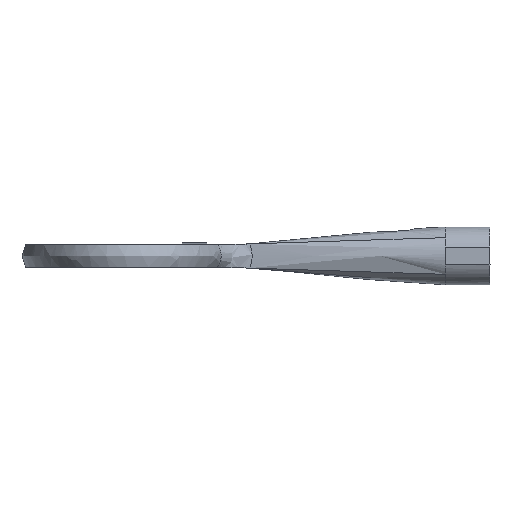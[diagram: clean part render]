
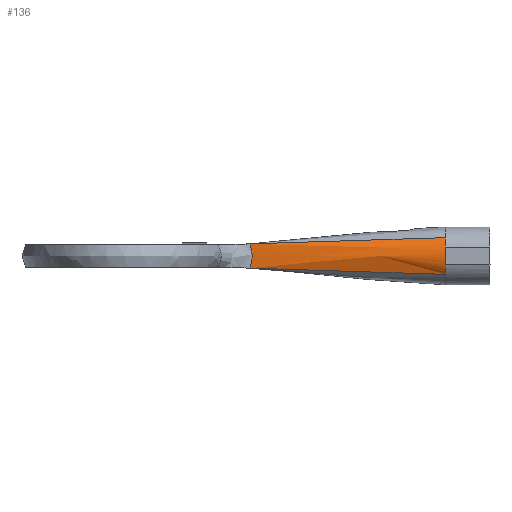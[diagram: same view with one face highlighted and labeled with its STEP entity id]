
A CAD part, left-side view. The second image highlights one B-rep face of the part: STEP entity #136.
In plain terms, the highlighted free-form (B-spline) face has degree [3, 3] with [4, 7] control points.
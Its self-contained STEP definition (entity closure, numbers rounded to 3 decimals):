
#136=ADVANCED_FACE('',(#286),#287,.T.);
#286=FACE_OUTER_BOUND('',#793,.T.);
#287=B_SPLINE_SURFACE_WITH_KNOTS('',3,3,((#794,#795,#796,#797,#798,#799,#800),(#801,#802,#803,#804,#805,#806,#807),(#808,#809,#810,#811,#812,#813,#814),(#815,#816,#817,#818,#819,#820,#821)),.UNSPECIFIED.,.F.,.F.,.F.,(4,4),(4,1,1,1,4),(0.0,1.0),(0.0,0.25,0.5,0.75,1.0),.UNSPECIFIED.);
#793=EDGE_LOOP('',(#2628,#2629,#2630,#2631,#2632,#2633));
#794=CARTESIAN_POINT('',(-4.5,-15.148,-1.75));
#795=CARTESIAN_POINT('',(-4.5,-15.148,-1.458));
#796=CARTESIAN_POINT('',(-4.5,-15.148,-0.875));
#797=CARTESIAN_POINT('',(-4.5,-15.148,0.));
#798=CARTESIAN_POINT('',(-4.5,-15.148,0.875));
#799=CARTESIAN_POINT('',(-4.5,-15.148,1.458));
#800=CARTESIAN_POINT('',(-4.5,-15.148,1.75));
#801=CARTESIAN_POINT('',(-4.158,-26.775,-2.12));
#802=CARTESIAN_POINT('',(-4.158,-26.775,-1.829));
#803=CARTESIAN_POINT('',(-4.158,-26.775,-1.153));
#804=CARTESIAN_POINT('',(-4.158,-26.775,0.));
#805=CARTESIAN_POINT('',(-4.158,-26.775,1.153));
#806=CARTESIAN_POINT('',(-4.158,-26.775,1.829));
#807=CARTESIAN_POINT('',(-4.158,-26.775,2.12));
#808=CARTESIAN_POINT('',(-3.816,-38.403,-2.491));
#809=CARTESIAN_POINT('',(-4.144,-38.403,-2.092));
#810=CARTESIAN_POINT('',(-4.662,-38.403,-1.272));
#811=CARTESIAN_POINT('',(-4.932,-38.403,0.));
#812=CARTESIAN_POINT('',(-4.662,-38.403,1.272));
#813=CARTESIAN_POINT('',(-4.144,-38.403,2.092));
#814=CARTESIAN_POINT('',(-3.816,-38.403,2.491));
#815=CARTESIAN_POINT('',(-3.473,-50.03,-2.861));
#816=CARTESIAN_POINT('',(-3.802,-50.03,-2.462));
#817=CARTESIAN_POINT('',(-4.32,-50.03,-1.55));
#818=CARTESIAN_POINT('',(-4.59,-50.03,0.));
#819=CARTESIAN_POINT('',(-4.32,-50.03,1.55));
#820=CARTESIAN_POINT('',(-3.802,-50.03,2.462));
#821=CARTESIAN_POINT('',(-3.473,-50.03,2.861));
#2628=ORIENTED_EDGE('',*,*,#3027,.T.);
#2629=ORIENTED_EDGE('',*,*,#3028,.T.);
#2630=ORIENTED_EDGE('',*,*,#3029,.T.);
#2631=ORIENTED_EDGE('',*,*,#2854,.T.);
#2632=ORIENTED_EDGE('',*,*,#3030,.T.);
#2633=ORIENTED_EDGE('',*,*,#3031,.F.);
#2854=EDGE_CURVE('',#3079,#3080,#3081,.T.);
#3027=EDGE_CURVE('',#3372,#3373,#3374,.T.);
#3028=EDGE_CURVE('',#3373,#3375,#3376,.T.);
#3029=EDGE_CURVE('',#3375,#3079,#3377,.T.);
#3030=EDGE_CURVE('',#3080,#3101,#3378,.T.);
#3031=EDGE_CURVE('',#3372,#3101,#3379,.T.);
#3079=VERTEX_POINT('',#3454);
#3080=VERTEX_POINT('',#3455);
#3081=B_SPLINE_CURVE_WITH_KNOTS('',3,(#3456,#3457,#3458,#3459,#3460),.UNSPECIFIED.,.F.,.F.,(4,1,4),(0.0,0.25,0.27),.UNSPECIFIED.);
#3101=VERTEX_POINT('',#3497);
#3372=VERTEX_POINT('',#4189);
#3373=VERTEX_POINT('',#4190);
#3374=B_SPLINE_CURVE_WITH_KNOTS('',3,(#4191,#4192,#4193,#4194),.UNSPECIFIED.,.F.,.F.,(4,4),(0.0,0.874),.UNSPECIFIED.);
#3375=VERTEX_POINT('',#4195);
#3376=B_SPLINE_CURVE_WITH_KNOTS('',3,(#4196,#4197,#4198,#4199,#4200,#4201,#4202,#4203,#4204,#4205,#4206,#4207,#4208,#4209,#4210,#4211,#4212,#4213,#4214,#4215,#4216,#4217,#4218,#4219,#4220,#4221,#4222,#4223,#4224,#4225,#4226,#4227,#4228,#4229,#4230,#4231,#4232,#4233,#4234,#4235,#4236,#4237),.UNSPECIFIED.,.F.,.F.,(4,2,1,1,1,1,1,1,2,2,2,2,1,2,2,1,2,2,1,2,2,1,1,1,1,1,2,4),(0.,0.,0.,0.,0.,0.,0.,0.,0.,0.001,0.001,0.001,0.001,0.001,0.002,0.002,0.002,0.002,0.002,0.003,0.003,0.004,0.004,0.004,0.004,0.004,0.004,0.004),.UNSPECIFIED.);
#3377=B_SPLINE_CURVE_WITH_KNOTS('',3,(#4238,#4239,#4240,#4241),.UNSPECIFIED.,.F.,.F.,(4,4),(0.126,1.0),.UNSPECIFIED.);
#3378=B_SPLINE_CURVE_WITH_KNOTS('',3,(#4242,#4243,#4244,#4245,#4246),.UNSPECIFIED.,.F.,.F.,(4,1,4),(0.27,0.5,0.73),.UNSPECIFIED.);
#3379=B_SPLINE_CURVE_WITH_KNOTS('',3,(#4247,#4248,#4249,#4250),.UNSPECIFIED.,.F.,.F.,(4,4),(0.851,1.0),.UNSPECIFIED.);
#3454=CARTESIAN_POINT('',(-3.472,-50.03,-2.862));
#3455=CARTESIAN_POINT('',(-4.277,-50.03,-1.4));
#3456=CARTESIAN_POINT('',(-3.473,-50.03,-2.861));
#3457=CARTESIAN_POINT('',(-3.802,-50.03,-2.462));
#3458=CARTESIAN_POINT('',(-4.082,-50.03,-1.969));
#3459=CARTESIAN_POINT('',(-4.264,-50.03,-1.44));
#3460=CARTESIAN_POINT('',(-4.277,-50.03,-1.4));
#3497=CARTESIAN_POINT('',(-4.277,-50.03,1.4));
#4189=CARTESIAN_POINT('',(-3.473,-50.03,2.862));
#4190=CARTESIAN_POINT('',(-4.371,-19.541,1.89));
#4191=CARTESIAN_POINT('',(-3.473,-50.03,2.861));
#4192=CARTESIAN_POINT('',(-3.772,-39.867,2.537));
#4193=CARTESIAN_POINT('',(-4.072,-29.704,2.214));
#4194=CARTESIAN_POINT('',(-4.371,-19.541,1.89));
#4195=CARTESIAN_POINT('',(-4.371,-19.541,-1.89));
#4196=CARTESIAN_POINT('',(-4.371,-19.541,1.89));
#4197=CARTESIAN_POINT('',(-4.371,-19.541,1.889));
#4198=CARTESIAN_POINT('',(-4.371,-19.542,1.888));
#4199=CARTESIAN_POINT('',(-4.371,-19.543,1.885));
#4200=CARTESIAN_POINT('',(-4.371,-19.544,1.882));
#4201=CARTESIAN_POINT('',(-4.371,-19.547,1.873));
#4202=CARTESIAN_POINT('',(-4.372,-19.554,1.857));
#4203=CARTESIAN_POINT('',(-4.373,-19.567,1.824));
#4204=CARTESIAN_POINT('',(-4.376,-19.593,1.758));
#4205=CARTESIAN_POINT('',(-4.38,-19.642,1.625));
#4206=CARTESIAN_POINT('',(-4.384,-19.68,1.509));
#4207=CARTESIAN_POINT('',(-4.392,-19.752,1.278));
#4208=CARTESIAN_POINT('',(-4.396,-19.793,1.121));
#4209=CARTESIAN_POINT('',(-4.401,-19.834,0.922));
#4210=CARTESIAN_POINT('',(-4.402,-19.842,0.882));
#4211=CARTESIAN_POINT('',(-4.403,-19.853,0.822));
#4212=CARTESIAN_POINT('',(-4.404,-19.857,0.802));
#4213=CARTESIAN_POINT('',(-4.404,-19.864,0.762));
#4214=CARTESIAN_POINT('',(-4.406,-19.88,0.662));
#4215=CARTESIAN_POINT('',(-4.408,-19.893,0.562));
#4216=CARTESIAN_POINT('',(-4.411,-19.919,0.321));
#4217=CARTESIAN_POINT('',(-4.412,-19.927,0.159));
#4218=CARTESIAN_POINT('',(-4.412,-19.927,-0.083));
#4219=CARTESIAN_POINT('',(-4.411,-19.924,-0.204));
#4220=CARTESIAN_POINT('',(-4.41,-19.916,-0.326));
#4221=CARTESIAN_POINT('',(-4.41,-19.911,-0.386));
#4222=CARTESIAN_POINT('',(-4.41,-19.909,-0.407));
#4223=CARTESIAN_POINT('',(-4.409,-19.905,-0.447));
#4224=CARTESIAN_POINT('',(-4.407,-19.887,-0.629));
#4225=CARTESIAN_POINT('',(-4.404,-19.858,-0.809));
#4226=CARTESIAN_POINT('',(-4.396,-19.792,-1.124));
#4227=CARTESIAN_POINT('',(-4.392,-19.752,-1.279));
#4228=CARTESIAN_POINT('',(-4.384,-19.68,-1.51));
#4229=CARTESIAN_POINT('',(-4.38,-19.642,-1.625));
#4230=CARTESIAN_POINT('',(-4.376,-19.593,-1.758));
#4231=CARTESIAN_POINT('',(-4.373,-19.567,-1.824));
#4232=CARTESIAN_POINT('',(-4.372,-19.554,-1.857));
#4233=CARTESIAN_POINT('',(-4.371,-19.547,-1.873));
#4234=CARTESIAN_POINT('',(-4.371,-19.544,-1.881));
#4235=CARTESIAN_POINT('',(-4.371,-19.543,-1.885));
#4236=CARTESIAN_POINT('',(-4.371,-19.542,-1.888));
#4237=CARTESIAN_POINT('',(-4.371,-19.541,-1.89));
#4238=CARTESIAN_POINT('',(-4.371,-19.541,-1.89));
#4239=CARTESIAN_POINT('',(-4.072,-29.704,-2.214));
#4240=CARTESIAN_POINT('',(-3.772,-39.867,-2.537));
#4241=CARTESIAN_POINT('',(-3.473,-50.03,-2.861));
#4242=CARTESIAN_POINT('',(-4.277,-50.03,-1.4));
#4243=CARTESIAN_POINT('',(-4.424,-50.03,-0.949));
#4244=CARTESIAN_POINT('',(-4.576,-50.03,0.));
#4245=CARTESIAN_POINT('',(-4.424,-50.03,0.949));
#4246=CARTESIAN_POINT('',(-4.277,-50.03,1.4));
#4247=CARTESIAN_POINT('',(-3.473,-50.03,2.862));
#4248=CARTESIAN_POINT('',(-3.828,-50.03,2.43));
#4249=CARTESIAN_POINT('',(-4.103,-50.03,1.932));
#4250=CARTESIAN_POINT('',(-4.277,-50.03,1.4));
